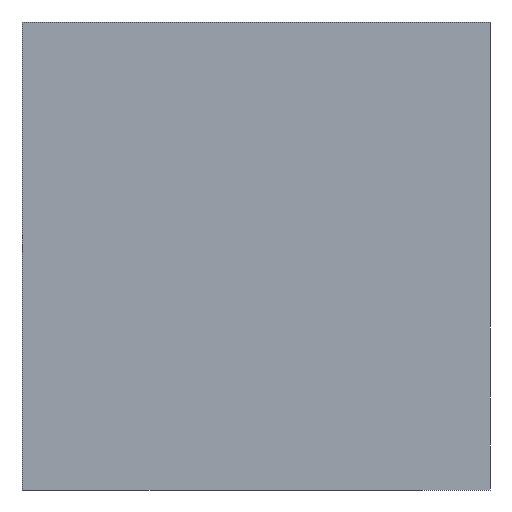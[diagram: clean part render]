
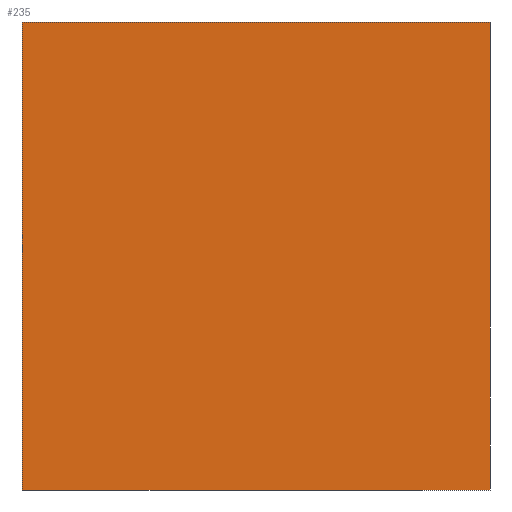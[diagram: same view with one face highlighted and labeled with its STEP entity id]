
A CAD part, left-side view. The second image highlights one B-rep face of the part: STEP entity #235.
In plain terms, the highlighted planar face has unit normal (-1, 0, 0).
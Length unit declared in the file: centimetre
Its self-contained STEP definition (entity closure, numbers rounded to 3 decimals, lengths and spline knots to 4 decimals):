
#5 = VECTOR ( 'NONE', #399, 100. ) ;
#28 = VERTEX_POINT ( 'NONE', #327 ) ;
#45 = EDGE_LOOP ( 'NONE', ( #324, #351, #434, #358 ) ) ;
#50 = CARTESIAN_POINT ( 'NONE',  ( 0., 0., 1000. ) ) ;
#51 = VECTOR ( 'NONE', #206, 100. ) ;
#57 = LINE ( 'NONE', #134, #131 ) ;
#69 = CARTESIAN_POINT ( 'NONE',  ( 0., 1000., 0. ) ) ;
#70 = VERTEX_POINT ( 'NONE', #477 ) ;
#71 = DIRECTION ( 'NONE',  ( 0., 0., -1. ) ) ;
#73 = CARTESIAN_POINT ( 'NONE',  ( 0., 1000., 1000. ) ) ;
#94 = LINE ( 'NONE', #411, #51 ) ;
#102 = AXIS2_PLACEMENT_3D ( 'NONE', #73, #393, #343 ) ;
#112 = EDGE_CURVE ( 'NONE', #376, #414, #57, .T. ) ;
#131 = VECTOR ( 'NONE', #297, 100. ) ;
#134 = CARTESIAN_POINT ( 'NONE',  ( 0., 1000., 1000. ) ) ;
#150 = EDGE_CURVE ( 'NONE', #376, #70, #445, .T. ) ;
#158 = CARTESIAN_POINT ( 'NONE',  ( 0., 1000., 1000. ) ) ;
#190 = EDGE_CURVE ( 'NONE', #70, #28, #439, .T. ) ;
#206 = DIRECTION ( 'NONE',  ( 0., 0., -1. ) ) ;
#235 = ADVANCED_FACE ( 'NONE', ( #346 ), #311, .F. ) ;
#297 = DIRECTION ( 'NONE',  ( 0., -1., 0. ) ) ;
#311 = PLANE ( 'NONE',  #102 ) ;
#324 = ORIENTED_EDGE ( 'NONE', *, *, #190, .T. ) ;
#327 = CARTESIAN_POINT ( 'NONE',  ( 0., 0., 0. ) ) ;
#343 = DIRECTION ( 'NONE',  ( 0., 0., -1. ) ) ;
#346 = FACE_OUTER_BOUND ( 'NONE', #45, .T. ) ;
#351 = ORIENTED_EDGE ( 'NONE', *, *, #405, .F. ) ;
#358 = ORIENTED_EDGE ( 'NONE', *, *, #150, .T. ) ;
#376 = VERTEX_POINT ( 'NONE', #494 ) ;
#393 = DIRECTION ( 'NONE',  ( 1., 0., 0. ) ) ;
#399 = DIRECTION ( 'NONE',  ( 0., -1., 0. ) ) ;
#405 = EDGE_CURVE ( 'NONE', #414, #28, #94, .T. ) ;
#411 = CARTESIAN_POINT ( 'NONE',  ( 0., 0., 1000. ) ) ;
#414 = VERTEX_POINT ( 'NONE', #50 ) ;
#422 = VECTOR ( 'NONE', #71, 100. ) ;
#434 = ORIENTED_EDGE ( 'NONE', *, *, #112, .F. ) ;
#439 = LINE ( 'NONE', #69, #5 ) ;
#445 = LINE ( 'NONE', #158, #422 ) ;
#477 = CARTESIAN_POINT ( 'NONE',  ( 0., 1000., 0. ) ) ;
#494 = CARTESIAN_POINT ( 'NONE',  ( 0., 1000., 1000. ) ) ;
